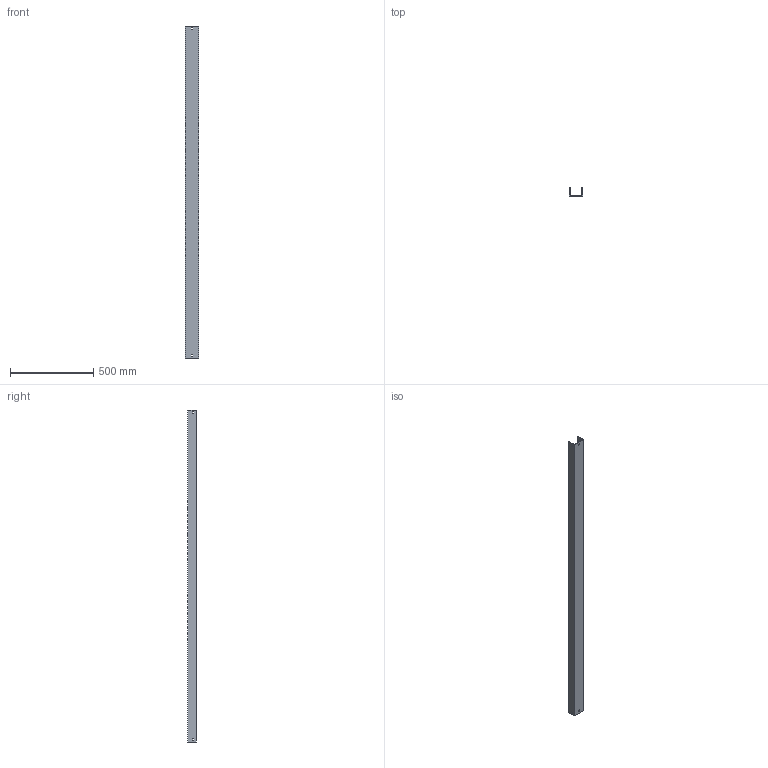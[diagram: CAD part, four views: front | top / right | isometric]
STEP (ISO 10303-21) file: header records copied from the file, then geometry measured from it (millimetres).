
FILE_DESCRIPTION (( 'STEP AP214' ), '1' );
FILE_NAME ('03F2B075.step', '2025-02-21T13:23:27', ( '' ), ( '' ), 'SwSTEP 2.0', 'SolidWorks 2023', '' );
FILE_SCHEMA (( 'AUTOMOTIVE_DESIGN' ));
Length unit declared in the file: millimetre
Products named in the file (1): 03F2B075
Bounding box: 79 x 52 x 2000 mm (x, y, z)
Volume: 1230610.5 mm3; surface area: 719131 mm2
Topology: 1 solids, 1 shells, 34 faces, 96 edges, 64 vertices
Faces by surface type: plane 34
Entity records: 1127 total; most frequent: CARTESIAN_POINT 195, ORIENTED_EDGE 192, DIRECTION 166, EDGE_CURVE 96, LINE 96, VECTOR 96, VERTEX_POINT 64, EDGE_LOOP 46
